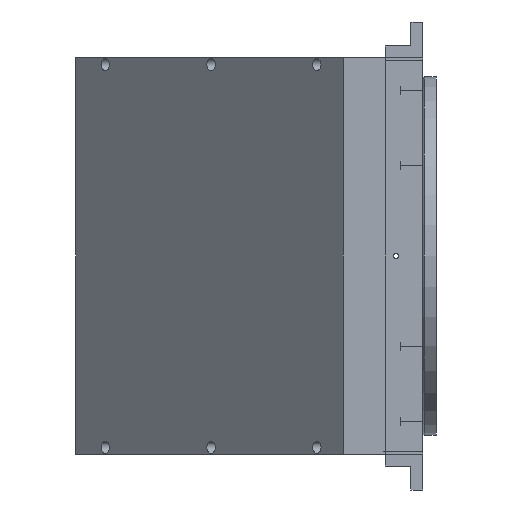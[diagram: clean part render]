
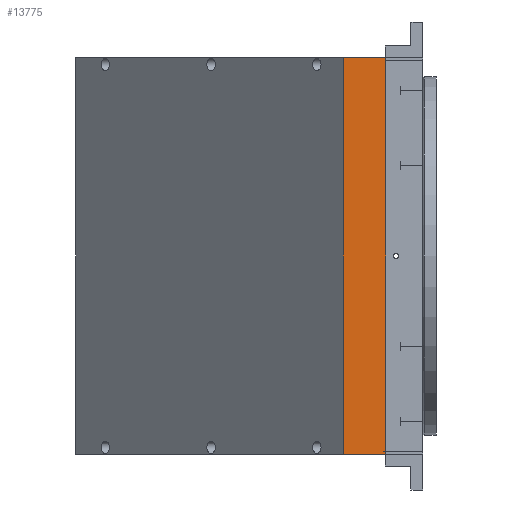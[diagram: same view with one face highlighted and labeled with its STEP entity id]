
A CAD part, left-side view. The second image highlights one B-rep face of the part: STEP entity #13775.
In plain terms, the highlighted planar face has unit normal (-1, 0, 0).
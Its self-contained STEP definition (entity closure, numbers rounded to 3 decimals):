
#1188 = CARTESIAN_POINT ( 'NONE',  ( -122.54, 24.96, -132.5 ) ) ;
#3698 = EDGE_CURVE ( 'NONE', #31791, #11846, #5520, .T. ) ;
#4577 = PLANE ( 'NONE',  #24515 ) ;
#4805 = VECTOR ( 'NONE', #31054, 1000. ) ;
#4881 = LINE ( 'NONE', #22430, #16797 ) ;
#5520 = LINE ( 'NONE', #6898, #29714 ) ;
#5802 = VECTOR ( 'NONE', #31235, 1000. ) ;
#6451 = VERTEX_POINT ( 'NONE', #15424 ) ;
#6898 = CARTESIAN_POINT ( 'NONE',  ( -122.54, 53.244, 132.5 ) ) ;
#7222 = DIRECTION ( 'NONE',  ( 0., 0., -1. ) ) ;
#9523 = DIRECTION ( 'NONE',  ( 0., -1., 0. ) ) ;
#11846 = VERTEX_POINT ( 'NONE', #31106 ) ;
#13220 = EDGE_CURVE ( 'NONE', #26264, #6451, #4881, .T. ) ;
#13775 = ADVANCED_FACE ( 'NONE', ( #17537 ), #4577, .T. ) ;
#14728 = CARTESIAN_POINT ( 'NONE',  ( -122.54, 53.244, 0. ) ) ;
#14803 = DIRECTION ( 'NONE',  ( 0., 1., 0. ) ) ;
#15424 = CARTESIAN_POINT ( 'NONE',  ( -122.54, 53.244, -132.5 ) ) ;
#16137 = ORIENTED_EDGE ( 'NONE', *, *, #13220, .F. ) ;
#16626 = EDGE_CURVE ( 'NONE', #6451, #31791, #18488, .T. ) ;
#16797 = VECTOR ( 'NONE', #14803, 1000. ) ;
#16937 = ORIENTED_EDGE ( 'NONE', *, *, #3698, .F. ) ;
#17166 = ORIENTED_EDGE ( 'NONE', *, *, #21092, .T. ) ;
#17487 = CARTESIAN_POINT ( 'NONE',  ( -122.54, 53.244, 132.5 ) ) ;
#17537 = FACE_OUTER_BOUND ( 'NONE', #21792, .T. ) ;
#18488 = LINE ( 'NONE', #28838, #5802 ) ;
#18532 = CARTESIAN_POINT ( 'NONE',  ( -122.54, 24.96, 132.5 ) ) ;
#21092 = EDGE_CURVE ( 'NONE', #26264, #11846, #30572, .T. ) ;
#21446 = ORIENTED_EDGE ( 'NONE', *, *, #16626, .F. ) ;
#21792 = EDGE_LOOP ( 'NONE', ( #16137, #17166, #16937, #21446 ) ) ;
#22369 = DIRECTION ( 'NONE',  ( -1., 0., 0. ) ) ;
#22430 = CARTESIAN_POINT ( 'NONE',  ( -122.54, 53.244, -132.5 ) ) ;
#24515 = AXIS2_PLACEMENT_3D ( 'NONE', #14728, #22369, #7222 ) ;
#26264 = VERTEX_POINT ( 'NONE', #1188 ) ;
#28838 = CARTESIAN_POINT ( 'NONE',  ( -122.54, 53.244, 132.5 ) ) ;
#29714 = VECTOR ( 'NONE', #9523, 1000. ) ;
#30572 = LINE ( 'NONE', #18532, #4805 ) ;
#31054 = DIRECTION ( 'NONE',  ( 0., 0., 1. ) ) ;
#31106 = CARTESIAN_POINT ( 'NONE',  ( -122.54, 24.96, 132.5 ) ) ;
#31235 = DIRECTION ( 'NONE',  ( 0., 0., 1. ) ) ;
#31791 = VERTEX_POINT ( 'NONE', #17487 ) ;
